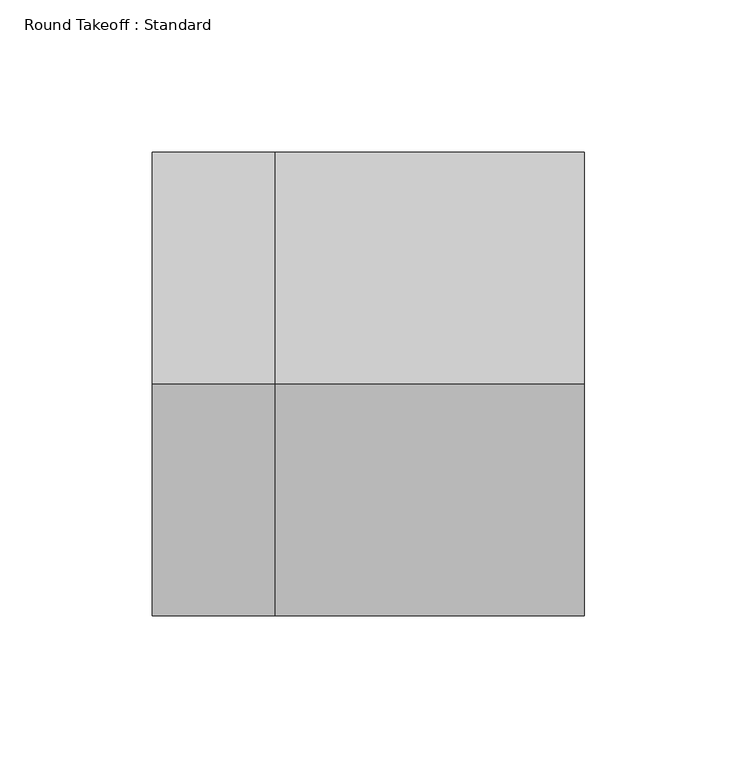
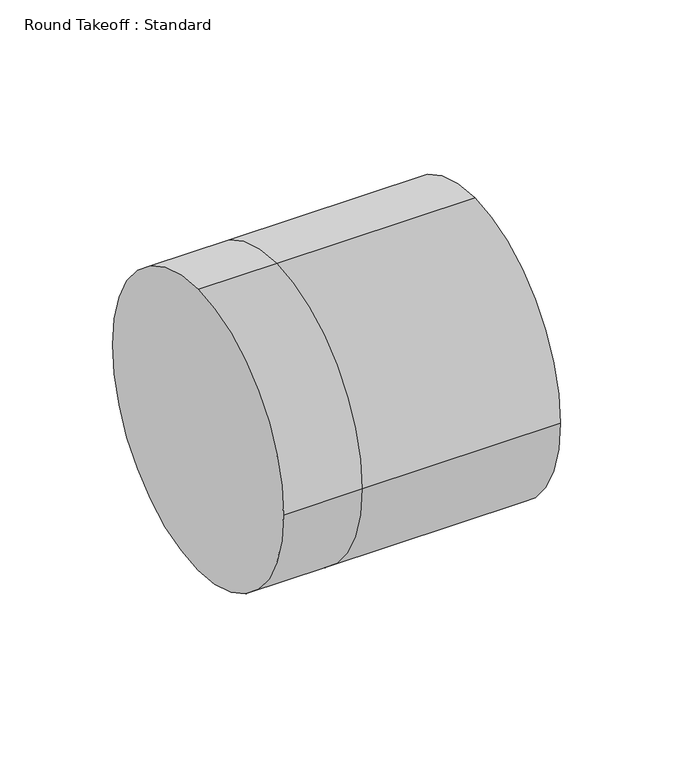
"""IFC4 building model written with IfcOpenShell, lengths in millimetres: duct fitting geometry, Round Takeoff : Standard."""

from ifc_helpers import new_model, si_unit, frame, origin, place, context, project, spatial, circle_curve, source, transform, mapped, element, save
from ifc_brep_helpers import plane_surface, cylinder_surface, advanced_brep


def round_takeoff_standard_db554fbb(model_context):
    return source(origin(), model_context, "Body", "AdvancedBrep", [
        advanced_brep(
        [(101.6, 0.0, 76.2), (101.6, -76.2, 0.0), (101.6, 0.0, -76.2), (101.6, 76.2, 0.0), (0.0, 76.2, 0.0), (0.0, 0.0, 76.2), (0.0, 0.0, -76.2), (0.0, -76.2, 0.0), (-40.4939167, 0.0, 76.2), (-40.4939167, 76.2, 0.0), (-40.4939167, 0.0, -76.2), (-40.4939167, -76.2, 0.0)],
        [
            (0, 1, circle_curve(frame((101.6, 0.0, 0.0), z_axis=(1.0, 0.0, 0.0), x_axis=(0.0, 1.0, 0.0)), 76.2)),
            (1, 2, circle_curve(frame((101.6, 0.0, 0.0), z_axis=(1.0, 0.0, 0.0), x_axis=(0.0, 1.0, 0.0)), 76.2)),
            (2, 3, circle_curve(frame((101.6, 0.0, 0.0), z_axis=(1.0, 0.0, 0.0), x_axis=(0.0, 1.0, 0.0)), 76.2)),
            (3, 0, circle_curve(frame((101.6, 0.0, 0.0), z_axis=(1.0, 0.0, 0.0), x_axis=(0.0, 1.0, 0.0)), 76.2)),
            (3, 4),
            (4, 5, circle_curve(frame((0.0, 0.0, 0.0), z_axis=(1.0, 0.0, 0.0), x_axis=(0.0, 1.0, 0.0)), 76.2)),
            (5, 0),
            (2, 6),
            (6, 4, circle_curve(frame((0.0, 0.0, 0.0), z_axis=(1.0, 0.0, 0.0), x_axis=(0.0, 1.0, 0.0)), 76.2)),
            (1, 7),
            (7, 6, circle_curve(frame((0.0, 0.0, 0.0), z_axis=(1.0, 0.0, 0.0), x_axis=(0.0, 1.0, 0.0)), 76.2)),
            (5, 7, circle_curve(frame((0.0, 0.0, 0.0), z_axis=(1.0, 0.0, 0.0), x_axis=(0.0, 1.0, 0.0)), 76.2)),
            (8, 9, circle_curve(frame((-40.4939167, 0.0, 0.0), z_axis=(-1.0, 0.0, 0.0), x_axis=(0.0, 1.0, 0.0)), 76.2)),
            (9, 10, circle_curve(frame((-40.4939167, 0.0, 0.0), z_axis=(-1.0, 0.0, 0.0), x_axis=(0.0, 1.0, 0.0)), 76.2)),
            (10, 11, circle_curve(frame((-40.4939167, 0.0, 0.0), z_axis=(-1.0, 0.0, 0.0), x_axis=(0.0, 1.0, 0.0)), 76.2)),
            (11, 8, circle_curve(frame((-40.4939167, 0.0, 0.0), z_axis=(-1.0, 0.0, 0.0), x_axis=(0.0, 1.0, 0.0)), 76.2)),
            (8, 5),
            (4, 9),
            (6, 10),
            (7, 11),
        ],
        [
            plane_surface(frame((101.6, 0.0, 0.0), z_axis=(1.0, 0.0, 0.0), x_axis=(0.0, 0.0, 1.0))),
            cylinder_surface(frame((0.0, 0.0, 0.0), z_axis=(-1.0, 0.0, 0.0), x_axis=(0.0, 1.0, 0.0)), 76.2),
            plane_surface(frame((-40.4939167, 0.0, 0.0), z_axis=(-1.0, 0.0, 0.0), x_axis=(0.0, 0.0, 1.0))),
            cylinder_surface(frame((-40.4939167, 0.0, 0.0), z_axis=(-1.0, 0.0, 0.0), x_axis=(0.0, 1.0, 0.0)), 76.2),
        ],
        [
            (0, [[1, 2, 3, 4]]),
            (1, [[-4, 5, 6, 7]]),
            (1, [[-3, 8, 9, -5]]),
            (1, [[-2, 10, 11, -8]]),
            (1, [[-1, -7, 12, -10]]),
            (2, [[13, 14, 15, 16]]),
            (3, [[-13, 17, -6, 18]]),
            (3, [[-14, -18, -9, 19]]),
            (3, [[-15, -19, -11, 20]]),
            (3, [[-16, -20, -12, -17]]),
        ],
    ),
    ])


if __name__ == "__main__":
    model = new_model("IFC4")
    model_context = context("Model", 3, world=origin())
    ifc_project = project(units=[si_unit("LENGTHUNIT", "METRE", prefix="MILLI")], contexts=[model_context])
    site = spatial("IfcSite", under=ifc_project)
    building = spatial("IfcBuilding", under=site)
    placement = place(None, origin())
    round_takeoff_standard_shape = round_takeoff_standard_db554fbb(model_context)
    element("IfcDuctFitting", 1, ObjectType="Round Takeoff : Standard", at=placement, inside=building, context=model_context, shape_type="MappedRepresentation", body=[
        mapped(round_takeoff_standard_shape, transform((0.0, 0.0, 0.0), x_axis=(1.0, 0.0, 0.0), y_axis=(0.0, 1.0, 0.0), z_axis=(0.0, 0.0, 1.0))),
    ])
    save(model, "model.ifc")
